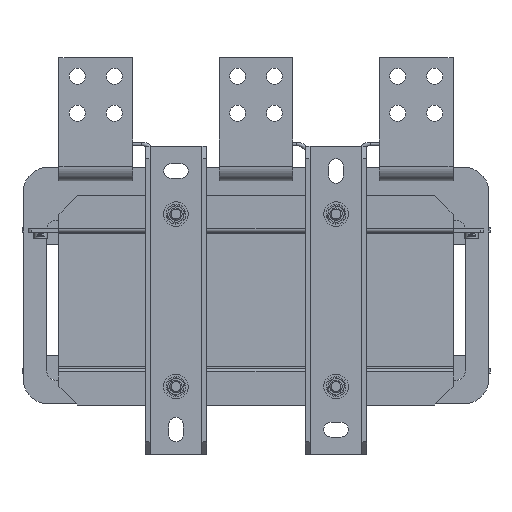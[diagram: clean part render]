
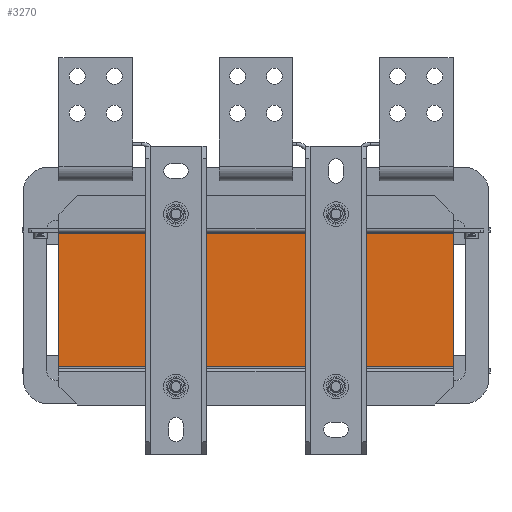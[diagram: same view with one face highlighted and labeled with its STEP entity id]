
A CAD part, front view. The second image highlights one B-rep face of the part: STEP entity #3270.
In plain terms, the highlighted planar face has unit normal (0, -1, 0).
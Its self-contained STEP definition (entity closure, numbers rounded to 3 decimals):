
#3270=ADVANCED_FACE('',(#11338),#11340,.F.);
#11338=FACE_BOUND('',#11339,.T.);
#11339=EDGE_LOOP('',(#22573,#22574,#22575,#22576));
#11340=PLANE('',#11341);
#11341=AXIS2_PLACEMENT_3D('',#11342,#11343,#11344);
#11342=CARTESIAN_POINT('',(-160.,-204.,108.));
#11343=DIRECTION('',(0.,1.,0.));
#11344=DIRECTION('',(0.,0.,1.));
#22573=ORIENTED_EDGE('',*,*,#26656,.T.);
#22574=ORIENTED_EDGE('',*,*,#26668,.F.);
#22575=ORIENTED_EDGE('',*,*,#26646,.F.);
#22576=ORIENTED_EDGE('',*,*,#26670,.T.);
#26646=EDGE_CURVE('',#28719,#28714,#28721,.T.);
#26656=EDGE_CURVE('',#28741,#28738,#28742,.T.);
#26668=EDGE_CURVE('',#28714,#28738,#28763,.T.);
#26670=EDGE_CURVE('',#28719,#28741,#28765,.T.);
#28714=VERTEX_POINT('',#32248);
#28719=VERTEX_POINT('',#32257);
#28721=LINE('',#32261,#32262);
#28738=VERTEX_POINT('',#32296);
#28741=VERTEX_POINT('',#32301);
#28742=LINE('',#32302,#32303);
#28763=LINE('',#32347,#32348);
#28765=LINE('',#32353,#32354);
#32248=CARTESIAN_POINT('',(160.,-204.,108.));
#32257=CARTESIAN_POINT('',(-160.,-204.,108.));
#32261=CARTESIAN_POINT('',(-160.,-204.,108.));
#32262=VECTOR('',#32263,1.);
#32263=DIRECTION('',(1.,0.,0.));
#32296=CARTESIAN_POINT('',(160.,-204.,0.));
#32301=CARTESIAN_POINT('',(-160.,-204.,0.));
#32302=CARTESIAN_POINT('',(-160.,-204.,0.));
#32303=VECTOR('',#32304,1.);
#32304=DIRECTION('',(1.,0.,0.));
#32347=CARTESIAN_POINT('',(160.,-204.,108.));
#32348=VECTOR('',#32349,1.);
#32349=DIRECTION('',(0.,0.,-1.));
#32353=CARTESIAN_POINT('',(-160.,-204.,108.));
#32354=VECTOR('',#32355,1.);
#32355=DIRECTION('',(0.,0.,-1.));
